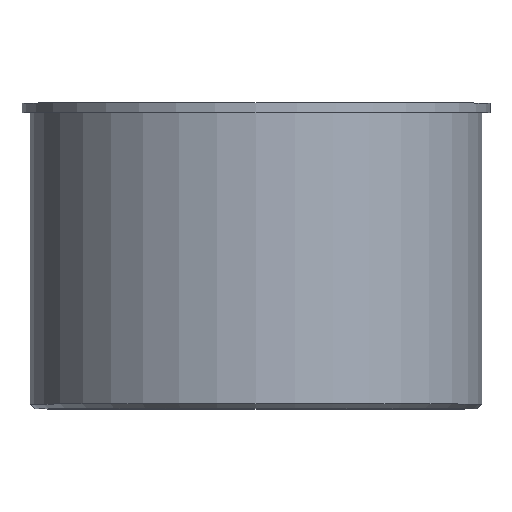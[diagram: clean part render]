
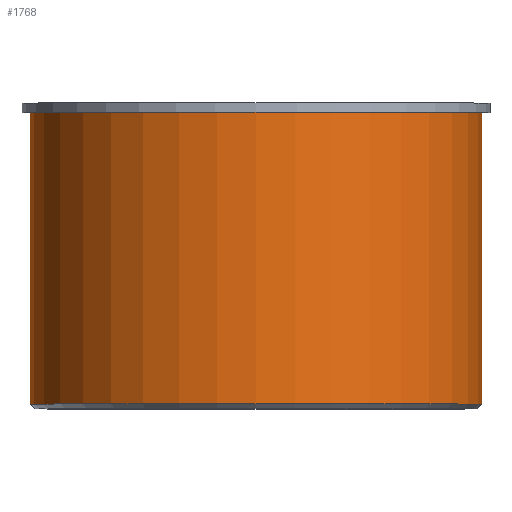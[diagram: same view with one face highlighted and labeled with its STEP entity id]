
A CAD part, top view. The second image highlights one B-rep face of the part: STEP entity #1768.
In plain terms, the highlighted cylindrical face has radius 48 mm (diameter 96 mm), a full revolution.
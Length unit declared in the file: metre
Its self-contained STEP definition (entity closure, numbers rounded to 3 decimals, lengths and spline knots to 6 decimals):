
#1768=ADVANCED_FACE('',(#3025,#3026),#3027,.T.);
#3025=FACE_OUTER_BOUND('',#5879,.T.);
#3026=FACE_OUTER_BOUND('',#5880,.T.);
#3027=CYLINDRICAL_SURFACE('',#5881,0.048);
#5879=EDGE_LOOP('',(#7365));
#5880=EDGE_LOOP('',(#7366));
#5881=AXIS2_PLACEMENT_3D('',#7367,#7368,#7369);
#7365=ORIENTED_EDGE('',*,*,#7433,.T.);
#7366=ORIENTED_EDGE('',*,*,#7505,.F.);
#7367=CARTESIAN_POINT('',(0.143827,0.005925,0.0));
#7368=DIRECTION('',(-0.0,-1.0,-0.0));
#7369=DIRECTION('',(0.0,0.0,1.0));
#7433=EDGE_CURVE('',#7572,#7572,#7573,.T.);
#7505=EDGE_CURVE('',#7677,#7677,#7678,.T.);
#7572=VERTEX_POINT('',#7767);
#7573=CIRCLE('',#7768,0.048);
#7677=VERTEX_POINT('',#7918);
#7678=CIRCLE('',#7919,0.048);
#7767=CARTESIAN_POINT('',(0.143827,-0.062129,0.048));
#7768=AXIS2_PLACEMENT_3D('',#7984,#7985,#7986);
#7918=CARTESIAN_POINT('',(0.143827,-0.000129,0.048));
#7919=AXIS2_PLACEMENT_3D('',#8081,#8082,#8083);
#7984=CARTESIAN_POINT('',(0.143827,-0.062129,0.0));
#7985=DIRECTION('',(0.0,1.0,0.0));
#7986=DIRECTION('',(0.0,0.0,1.0));
#8081=CARTESIAN_POINT('',(0.143827,-0.000129,0.0));
#8082=DIRECTION('',(0.0,1.0,0.0));
#8083=DIRECTION('',(0.0,0.0,1.0));
